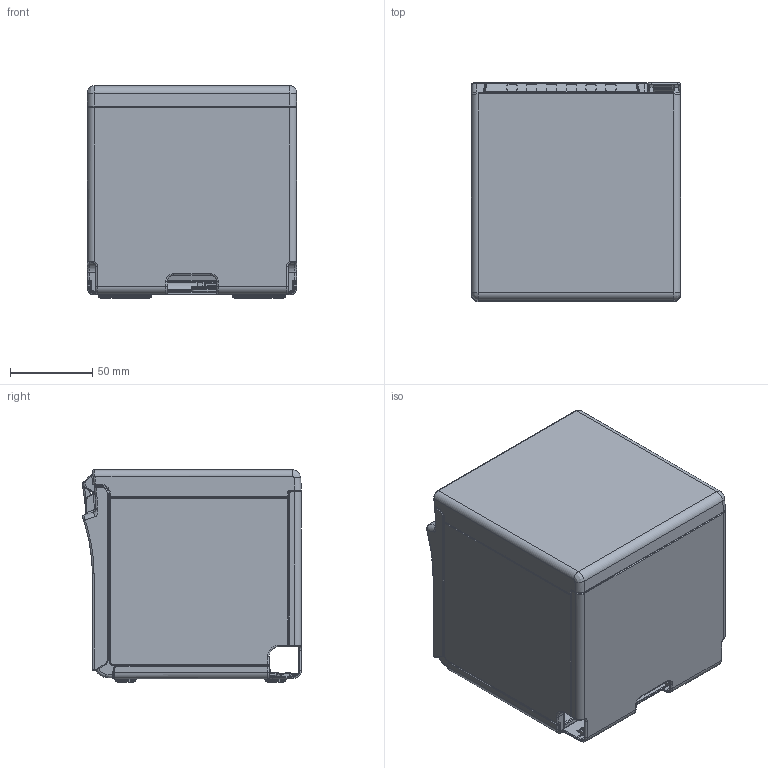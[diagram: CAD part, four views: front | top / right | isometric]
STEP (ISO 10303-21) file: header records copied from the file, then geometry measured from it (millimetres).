
FILE_DESCRIPTION((''),'2;1');
FILE_NAME('TM-M30II_FRONT_CLOSE_SW','2025-01-23T11:41:24',('0092109'),(''),'CREO PARAMETRIC BY PTC INC, 2022281','CREO PARAMETRIC BY PTC INC, 2022281','');
FILE_SCHEMA(('AUTOMOTIVE_DESIGN { 1 0 10303 214 1 1 1 1 }'));
Products named in the file (1): TM-M30II_FRONT_CLOSE_SW
Bounding box: 127 x 133 x 129 mm (x, y, z)
Surface area: 235571.1 mm2 (no closed solid volume)
Topology: 0 solids, 16 shells, 3344 faces, 9435 edges, 6019 vertices
Faces by surface type: plane 1422, cylinder 1285, torus 331, bspline 231, cone 49, sphere 25, extrusion 1
Entity records: 131924 total; most frequent: CARTESIAN_POINT 46500, ORIENTED_EDGE 17886, DIRECTION 17512, EDGE_CURVE 9435, VERTEX_POINT 6019, AXIS2_PLACEMENT_3D 5898, VECTOR 5716, LINE 5715
